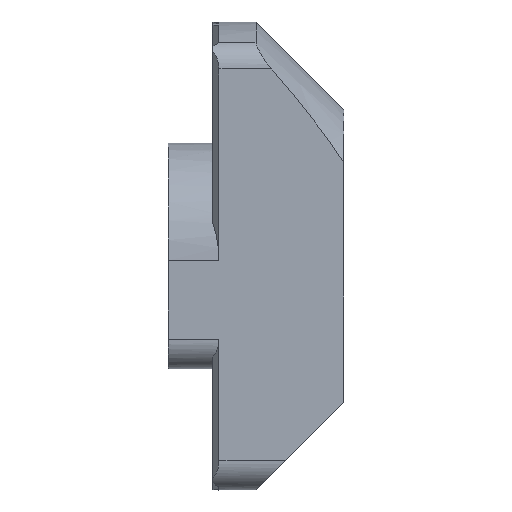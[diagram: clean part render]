
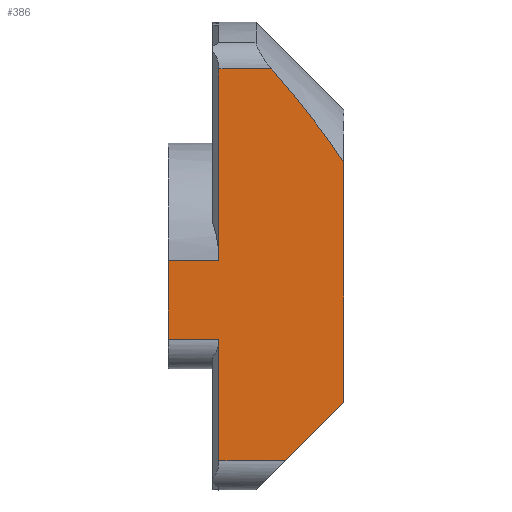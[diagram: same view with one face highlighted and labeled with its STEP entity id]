
A CAD part, left-side view. The second image highlights one B-rep face of the part: STEP entity #386.
In plain terms, the highlighted planar face has unit normal (-1, 0, 0).
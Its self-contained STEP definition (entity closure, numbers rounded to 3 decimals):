
#10 = ORIENTED_EDGE ( 'NONE', *, *, #3338, .F. ) ;
#31 = VERTEX_POINT ( 'NONE', #2017 ) ;
#48 = LINE ( 'NONE', #1152, #3576 ) ;
#86 = ORIENTED_EDGE ( 'NONE', *, *, #212, .T. ) ;
#114 = DIRECTION ( 'NONE',  ( 0., 0., 1. ) ) ;
#139 = LINE ( 'NONE', #3161, #2406 ) ;
#176 = DIRECTION ( 'NONE',  ( 0., -1., 0. ) ) ;
#179 = EDGE_CURVE ( 'NONE', #2196, #2216, #139, .T. ) ;
#212 = EDGE_CURVE ( 'NONE', #2216, #3033, #424, .T. ) ;
#253 = CARTESIAN_POINT ( 'NONE',  ( -3.85, 0., 0. ) ) ;
#269 = VECTOR ( 'NONE', #2248, 1000. ) ;
#386 = ADVANCED_FACE ( 'NONE', ( #2696 ), #1816, .T. ) ;
#413 = EDGE_CURVE ( 'NONE', #3160, #2053, #3246, .T. ) ;
#424 = LINE ( 'NONE', #1527, #1990 ) ;
#474 = CARTESIAN_POINT ( 'NONE',  ( -3.85, 4.266, -7. ) ) ;
#547 = VECTOR ( 'NONE', #176, 1000. ) ;
#631 = DIRECTION ( 'NONE',  ( 0., -1., 0. ) ) ;
#691 = DIRECTION ( 'NONE',  ( 0., 0., -1. ) ) ;
#808 = CARTESIAN_POINT ( 'NONE',  ( -3.85, 4.266, -7. ) ) ;
#851 = CARTESIAN_POINT ( 'NONE',  ( -3.85, 2.463, 6.394 ) ) ;
#870 = VERTEX_POINT ( 'NONE', #851 ) ;
#912 = CARTESIAN_POINT ( 'NONE',  ( -3.85, 4.266, -0.15 ) ) ;
#925 = VERTEX_POINT ( 'NONE', #912 ) ;
#974 = CARTESIAN_POINT ( 'NONE',  ( -3.85, 4.266, -0.15 ) ) ;
#990 = DIRECTION ( 'NONE',  ( 0., 0., 1. ) ) ;
#1049 = EDGE_CURVE ( 'NONE', #870, #2827, #3482, .T. ) ;
#1089 = LINE ( 'NONE', #253, #269 ) ;
#1152 = CARTESIAN_POINT ( 'NONE',  ( -3.85, 2., -7. ) ) ;
#1170 = CARTESIAN_POINT ( 'NONE',  ( -3.85, 6., -0.15 ) ) ;
#1178 = CARTESIAN_POINT ( 'NONE',  ( -3.85, 0., 3.19 ) ) ;
#1180 = VERTEX_POINT ( 'NONE', #2092 ) ;
#1257 = DIRECTION ( 'NONE',  ( 0., -1., 0. ) ) ;
#1303 = VECTOR ( 'NONE', #114, 1000. ) ;
#1406 = EDGE_CURVE ( 'NONE', #925, #1180, #2152, .T. ) ;
#1505 = EDGE_CURVE ( 'NONE', #3160, #3033, #3187, .T. ) ;
#1527 = CARTESIAN_POINT ( 'NONE',  ( -3.85, 0., -2.85 ) ) ;
#1531 = EDGE_CURVE ( 'NONE', #870, #1180, #3293, .T. ) ;
#1543 = DIRECTION ( 'NONE',  ( -1., 0., 0. ) ) ;
#1568 = DIRECTION ( 'NONE',  ( 0., 0., 1. ) ) ;
#1635 = ORIENTED_EDGE ( 'NONE', *, *, #1049, .F. ) ;
#1672 = CARTESIAN_POINT ( 'NONE',  ( -3.85, 0., -0.15 ) ) ;
#1756 = CARTESIAN_POINT ( 'NONE',  ( -3.85, 2.463, 6.394 ) ) ;
#1816 = PLANE ( 'NONE',  #2114 ) ;
#1844 = DIRECTION ( 'NONE',  ( 0., 1., 0. ) ) ;
#1868 = CARTESIAN_POINT ( 'NONE',  ( -3.85, 0., -7. ) ) ;
#1890 = VECTOR ( 'NONE', #631, 1000. ) ;
#1931 = ORIENTED_EDGE ( 'NONE', *, *, #2153, .T. ) ;
#1950 = CARTESIAN_POINT ( 'NONE',  ( -3.85, 6., -2.85 ) ) ;
#1990 = VECTOR ( 'NONE', #1257, 1000. ) ;
#2001 = CARTESIAN_POINT ( 'NONE',  ( -3.85, 1.594, 5.363 ) ) ;
#2010 = ORIENTED_EDGE ( 'NONE', *, *, #413, .T. ) ;
#2017 = CARTESIAN_POINT ( 'NONE',  ( -3.85, 0., -5. ) ) ;
#2050 = ORIENTED_EDGE ( 'NONE', *, *, #2281, .T. ) ;
#2052 = CARTESIAN_POINT ( 'NONE',  ( -3.85, 2.024, 5.881 ) ) ;
#2053 = VERTEX_POINT ( 'NONE', #3541 ) ;
#2068 = ORIENTED_EDGE ( 'NONE', *, *, #179, .T. ) ;
#2092 = CARTESIAN_POINT ( 'NONE',  ( -3.85, 4.266, 6.394 ) ) ;
#2114 = AXIS2_PLACEMENT_3D ( 'NONE', #2380, #1543, #990 ) ;
#2152 = LINE ( 'NONE', #974, #1303 ) ;
#2153 = EDGE_CURVE ( 'NONE', #31, #2827, #1089, .T. ) ;
#2164 = CARTESIAN_POINT ( 'NONE',  ( -3.85, 0., 6.394 ) ) ;
#2196 = VERTEX_POINT ( 'NONE', #1170 ) ;
#2203 = ORIENTED_EDGE ( 'NONE', *, *, #1505, .F. ) ;
#2216 = VERTEX_POINT ( 'NONE', #1950 ) ;
#2248 = DIRECTION ( 'NONE',  ( 0., 0., 1. ) ) ;
#2266 = DIRECTION ( 'NONE',  ( 0., -0.707, 0.707 ) ) ;
#2275 = ORIENTED_EDGE ( 'NONE', *, *, #1531, .T. ) ;
#2281 = EDGE_CURVE ( 'NONE', #2053, #31, #48, .T. ) ;
#2305 = LINE ( 'NONE', #1672, #1890 ) ;
#2364 = VECTOR ( 'NONE', #1568, 1000. ) ;
#2380 = CARTESIAN_POINT ( 'NONE',  ( -3.85, 0., 6.394 ) ) ;
#2386 = CARTESIAN_POINT ( 'NONE',  ( -3.85, 4.266, -2.85 ) ) ;
#2406 = VECTOR ( 'NONE', #691, 1000. ) ;
#2532 = ORIENTED_EDGE ( 'NONE', *, *, #1406, .F. ) ;
#2571 = EDGE_LOOP ( 'NONE', ( #2532, #10, #2068, #86, #2203, #2010, #2050, #1931, #1635, #2275 ) ) ;
#2696 = FACE_OUTER_BOUND ( 'NONE', #2571, .T. ) ;
#2827 = VERTEX_POINT ( 'NONE', #1178 ) ;
#2874 = CARTESIAN_POINT ( 'NONE',  ( -3.85, 0.364, 3.76 ) ) ;
#3033 = VERTEX_POINT ( 'NONE', #2386 ) ;
#3103 = CARTESIAN_POINT ( 'NONE',  ( -3.85, 0.764, 4.302 ) ) ;
#3160 = VERTEX_POINT ( 'NONE', #808 ) ;
#3161 = CARTESIAN_POINT ( 'NONE',  ( -3.85, 6., 6.394 ) ) ;
#3162 = CARTESIAN_POINT ( 'NONE',  ( -3.85, 0., 3.19 ) ) ;
#3187 = LINE ( 'NONE', #474, #2364 ) ;
#3246 = LINE ( 'NONE', #1868, #547 ) ;
#3269 = VECTOR ( 'NONE', #1844, 1000. ) ;
#3293 = LINE ( 'NONE', #2164, #3269 ) ;
#3338 = EDGE_CURVE ( 'NONE', #2196, #925, #2305, .T. ) ;
#3482 = B_SPLINE_CURVE_WITH_KNOTS ( 'NONE', 3,
 ( #1756, #2052, #2001, #3103, #2874, #3162 ),
 .UNSPECIFIED., .F., .F.,
 ( 4, 2, 4 ),
 ( 0., 0.002, 0.004 ),
 .UNSPECIFIED. ) ;
#3541 = CARTESIAN_POINT ( 'NONE',  ( -3.85, 2., -7. ) ) ;
#3576 = VECTOR ( 'NONE', #2266, 1000. ) ;
